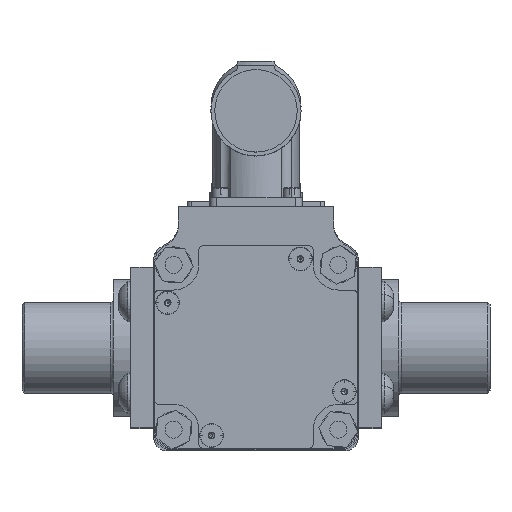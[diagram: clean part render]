
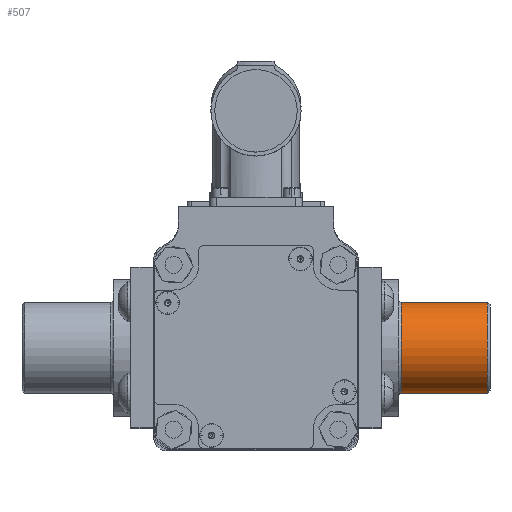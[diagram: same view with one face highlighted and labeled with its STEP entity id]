
A CAD part, top view. The second image highlights one B-rep face of the part: STEP entity #507.
In plain terms, the highlighted cylindrical face has radius 12.7 mm (diameter 25.4 mm), a partial arc.
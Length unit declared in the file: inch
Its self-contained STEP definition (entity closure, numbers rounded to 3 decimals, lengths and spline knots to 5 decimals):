
#241 = VERTEX_POINT ( 'NONE', #21978 ) ;
#248 = EDGE_CURVE ( 'NONE', #288, #241, #21973, .T. ) ;
#268 = EDGE_CURVE ( 'NONE', #288, #273, #22206, .T. ) ;
#269 = EDGE_CURVE ( 'NONE', #273, #347, #22201, .T. ) ;
#273 = VERTEX_POINT ( 'NONE', #22224 ) ;
#288 = VERTEX_POINT ( 'NONE', #22152 ) ;
#347 = VERTEX_POINT ( 'NONE', #22188 ) ;
#449 = EDGE_CURVE ( 'NONE', #241, #347, #22341, .T. ) ;
#507 = ADVANCED_FACE ( 'NONE', ( #22552 ), #22550, .T. ) ;
#539 = EDGE_LOOP ( 'NONE', ( #540, #541, #556, #557 ) ) ;
#540 = ORIENTED_EDGE ( 'NONE', *, *, #248, .F. ) ;
#541 = ORIENTED_EDGE ( 'NONE', *, *, #268, .T. ) ;
#556 = ORIENTED_EDGE ( 'NONE', *, *, #269, .T. ) ;
#557 = ORIENTED_EDGE ( 'NONE', *, *, #449, .F. ) ;
#21970 = DIRECTION ( 'NONE',  ( 1., 0., 0. ) ) ;
#21971 = VECTOR ( 'NONE', #21970, 39.37008 ) ;
#21972 = CARTESIAN_POINT ( 'NONE',  ( -0.25, -0.5, 0. ) ) ;
#21973 = LINE ( 'NONE', #21972, #21971 ) ;
#21978 = CARTESIAN_POINT ( 'NONE',  ( 1.1575, -0.5, 0. ) ) ;
#22152 = CARTESIAN_POINT ( 'NONE',  ( 0.2175, -0.5, 0. ) ) ;
#22188 = CARTESIAN_POINT ( 'NONE',  ( 1.1575, 0.5, 0. ) ) ;
#22198 = DIRECTION ( 'NONE',  ( 1., 0., 0. ) ) ;
#22199 = VECTOR ( 'NONE', #22198, 39.37008 ) ;
#22200 = CARTESIAN_POINT ( 'NONE',  ( -0.25, 0.5, 0. ) ) ;
#22201 = LINE ( 'NONE', #22200, #22199 ) ;
#22202 = DIRECTION ( 'NONE',  ( 0., 1., 0. ) ) ;
#22203 = DIRECTION ( 'NONE',  ( 1., 0., 0. ) ) ;
#22204 = CARTESIAN_POINT ( 'NONE',  ( 0.2175, 0., 0. ) ) ;
#22205 = AXIS2_PLACEMENT_3D ( 'NONE', #22204, #22203, #22202 ) ;
#22206 = CIRCLE ( 'NONE', #22205, 0.5 ) ;
#22224 = CARTESIAN_POINT ( 'NONE',  ( 0.2175, 0.5, 0. ) ) ;
#22338 = DIRECTION ( 'NONE',  ( 0., 1., 0. ) ) ;
#22339 = DIRECTION ( 'NONE',  ( 1., 0., 0. ) ) ;
#22340 = AXIS2_PLACEMENT_3D ( 'NONE', #22350, #22339, #22338 ) ;
#22341 = CIRCLE ( 'NONE', #22340, 0.5 ) ;
#22350 = CARTESIAN_POINT ( 'NONE',  ( 1.1575, 0., 0. ) ) ;
#22478 = DIRECTION ( 'NONE',  ( 0., 1., 0. ) ) ;
#22479 = DIRECTION ( 'NONE',  ( 1., 0., 0. ) ) ;
#22480 = CARTESIAN_POINT ( 'NONE',  ( -0.25, 0., 0. ) ) ;
#22481 = AXIS2_PLACEMENT_3D ( 'NONE', #22480, #22479, #22478 ) ;
#22550 = CYLINDRICAL_SURFACE ( 'NONE', #22481, 0.5 ) ;
#22552 = FACE_OUTER_BOUND ( 'NONE', #539, .T. ) ;
